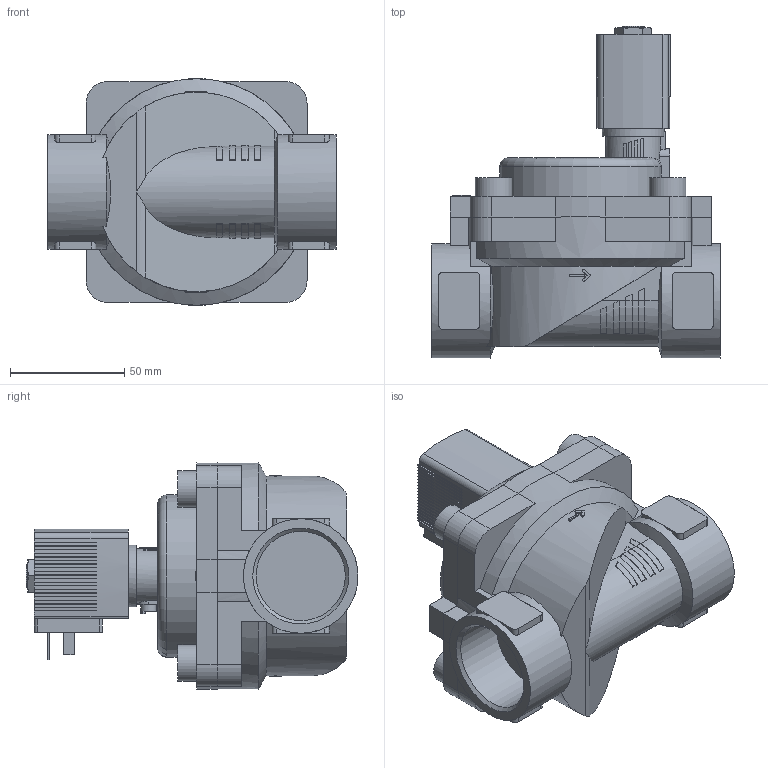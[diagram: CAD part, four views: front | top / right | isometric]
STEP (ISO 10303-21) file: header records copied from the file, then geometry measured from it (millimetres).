
FILE_DESCRIPTION(/* description */ ('STEP AP214'),/* implementation_level */ '2;1');
FILE_NAME(/* name */ '6281-274782-2_2-Way_Solenoid_Valve__Servo-assisted__General_Purpose',/* time_stamp */ '2024-06-21T17:37:06+02:00',/* author */ ('License CC BY-ND 4.0'),/* organization */ ('CADENAS'),/* preprocessor_version */ 'ST-DEVELOPER v19.3',/* originating_system */ 'PARTsolutions',/* authorisation */ ' ');
FILE_SCHEMA (('AUTOMOTIVE_DESIGN {1 0 10303 214 3 1 1}'));
Length unit declared in the file: millimetre
Products named in the file (4): 6281-274782-2/2-Way Solenoid Valve, Servo-assisted, General Purpose; 5281ev401MS2/2-Wege-Magnetventil mit Servomembran-Deckel 99 ; 6213-40G1_1/4MS-Gehaeuse-; AC10ex-5OO-Plan-Coil
Assembly tree (3 placements, depth 2):
  6281-274782-2/2-Way Solenoid Valve, Servo-assisted, General Purpose
    5281ev401MS2/2-Wege-Magnetventil mit Servomembran-Deckel 99 
    6213-40G1_1/4MS-Gehaeuse-
    AC10ex-5OO-Plan-Coil
Bounding box: 126 x 145 x 99 mm (x, y, z)
Volume: 592630.5 mm3; surface area: 87030 mm2
Topology: 3 solids, 3 shells, 564 faces, 1581 edges, 1049 vertices
Faces by surface type: plane 452, cylinder 96, cone 15, torus 1
Full cylindrical faces by diameter (mm): 2.013 x1, 6.8 x1, 9.74 x1, 16 x4, 27 x1, 38.952 x2, 50 x2
Entity records: 20842 total; most frequent: CARTESIAN_POINT 3433, ORIENTED_EDGE 3112, DIRECTION 2950, EDGE_CURVE 1556, LINE 1158, VECTOR 1158, VERTEX_POINT 1040, AXIS2_PLACEMENT_3D 896
